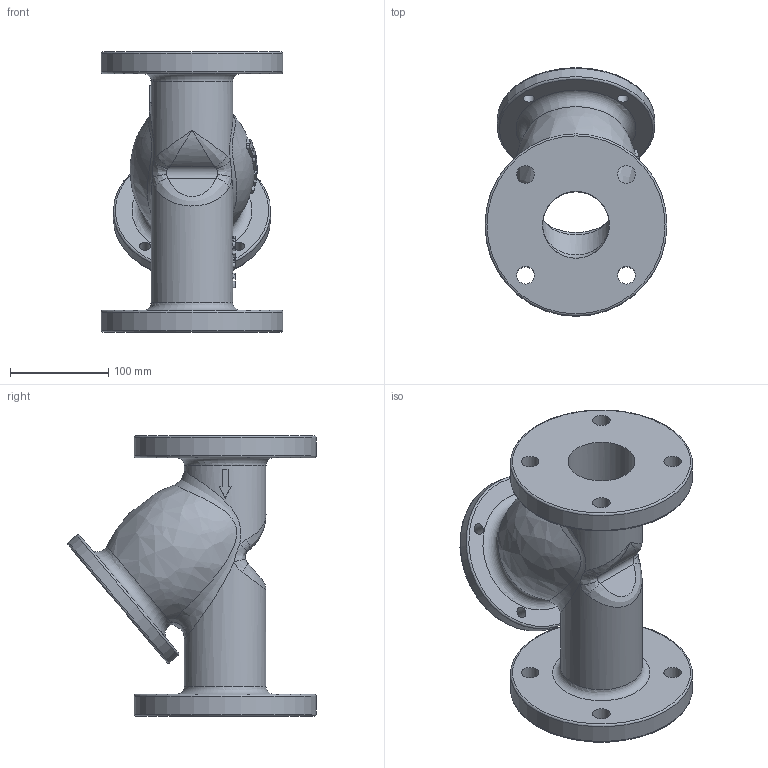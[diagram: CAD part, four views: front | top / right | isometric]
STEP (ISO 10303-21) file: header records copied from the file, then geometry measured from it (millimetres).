
FILE_DESCRIPTION( ( 'Unknown' ), '1' );
FILE_NAME( 'D:/Documentos Murilo/Desktop/VARB/2022/07 JULHO/FILTRO FYF 97 2_1_2/FILTRO 2_1_2.stp', 'Unknown', ( 'Unknown' ), ( 'Unknown' ), 'PSStep 11.0', 'Unknown', ' ' );
FILE_SCHEMA( ( 'AUTOMOTIVE_DESIGN { 1 0 10303 214 1 1 1 1 }' ) );
Length unit declared in the file: millimetre
Products named in the file (1): 1
Bounding box: 185 x 252.46 x 285 mm (x, y, z)
Volume: 1884653.3 mm3; surface area: 327296.9 mm2
Topology: 1 solids, 1 shells, 169 faces, 422 edges, 276 vertices
Faces by surface type: plane 80, cylinder 34, bspline 33, extrusion 12, torus 10
Full cylindrical faces by diameter (mm): 11 x4, 18 x8, 68 x2, 70 x1, 80 x2, 83 x2, 160 x1, 185 x2
Entity records: 17456 total; most frequent: CARTESIAN_POINT 12685, ORIENTED_EDGE 728, DIRECTION 545, EDGE_CURVE 364, VERTEX_POINT 256, EDGE_LOOP 254, AXIS2_PLACEMENT_3D 219, FACE_OUTER_BOUND 202
